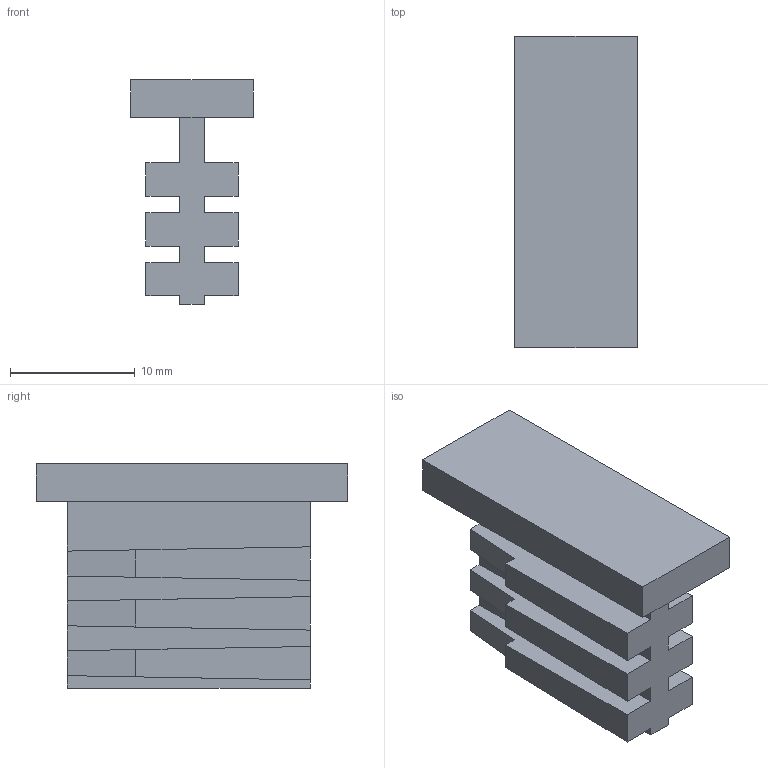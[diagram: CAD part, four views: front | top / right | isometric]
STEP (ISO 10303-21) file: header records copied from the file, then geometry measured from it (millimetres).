
FILE_DESCRIPTION (( 'STEP AP214' ), '1' );
FILE_NAME ('JB-550CAP.step', '2023-12-26T01:15:13', ( 'catia' ), ( 'HP Inc.' ), 'SwSTEP 2.0', 'SolidWorks 2021', '' );
FILE_SCHEMA (( 'AUTOMOTIVE_DESIGN' ));
Length unit declared in the file: millimetre
Products named in the file (1): JB-550CAP
Bounding box: 9.8 x 25 x 18 mm (x, y, z)
Volume: 1939.5 mm3; surface area: 1932.1 mm2
Topology: 1 solids, 1 shells, 47 faces, 132 edges, 88 vertices
Faces by surface type: plane 47
Entity records: 1520 total; most frequent: CARTESIAN_POINT 268, ORIENTED_EDGE 264, DIRECTION 228, VECTOR 132, LINE 132, EDGE_CURVE 132, VERTEX_POINT 88, AXIS2_PLACEMENT_3D 48
